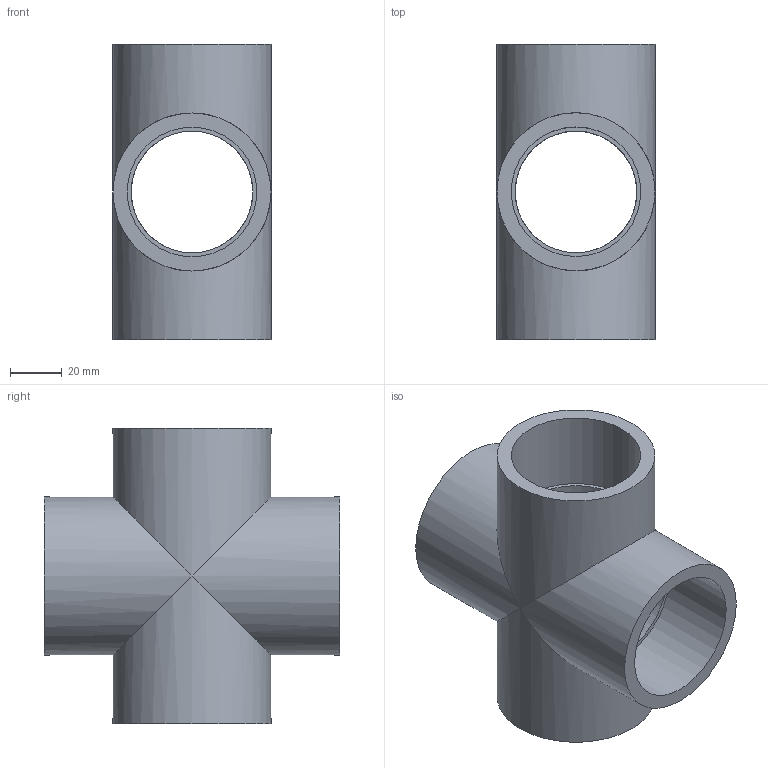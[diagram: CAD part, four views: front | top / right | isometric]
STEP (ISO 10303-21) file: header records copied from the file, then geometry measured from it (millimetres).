
FILE_DESCRIPTION(/* description */ ('Croci a 90° PVC'),/* implementation_level */ '2;1');
FILE_NAME(/* name */ 'C:\Users\POLYPIPE\Desktop\DATASET INVENTOR\LIBRERIA EFFAST\RACCORDI 3DxWEB\RDR\3D_RDRCRD\3D_RDRCRD0500.stp',/* time_stamp */ '2018-01-19T14:17:34+01:00',/* author */ ('POLYPIPE'),/* organization */ ('Polypipe Italia s.r.l.'),/* preprocessor_version */ 'ST-DEVELOPER v16.1',/* originating_system */ 'Autodesk Inventor 2016',/* authorisation */ '');
FILE_SCHEMA (('CONFIG_CONTROL_DESIGN'));
Length unit declared in the file: millimetre
Products named in the file (1): 3D_RDRCRD
Bounding box: 61 x 114 x 114 mm (x, y, z)
Volume: 160309.4 mm3; surface area: 59557.4 mm2
Topology: 1 solids, 1 shells, 20 faces, 36 edges, 20 vertices
Faces by surface type: cylinder 12, plane 8
Full cylindrical faces by diameter (mm): 47 x4, 50 x4, 61 x4
Entity records: 464 total; most frequent: DIRECTION 90, CARTESIAN_POINT 65, ORIENTED_EDGE 48, AXIS2_PLACEMENT_3D 45, EDGE_LOOP 40, EDGE_CURVE 24, FACE_BOUND 20, FACE_OUTER_BOUND 20
